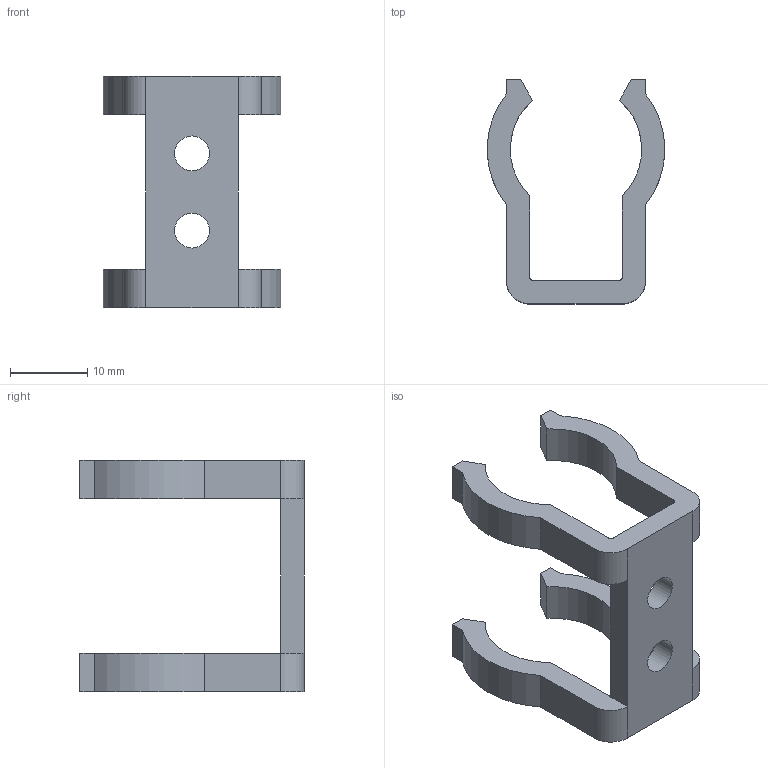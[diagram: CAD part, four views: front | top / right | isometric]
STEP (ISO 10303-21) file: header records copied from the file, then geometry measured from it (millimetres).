
FILE_DESCRIPTION(('STEP AP203'),'1');
FILE_NAME('BVFL-46H_3D.stp','2024-09-30T02:42:35',(' '),(' '),'Spatial InterOp 3D',' ',' ');
FILE_SCHEMA(('CONFIG_CONTROL_DESIGN'));
Length unit declared in the file: millimetre
Products named in the file (1): 1
Bounding box: 23 x 29 x 30 mm (x, y, z)
Volume: 2741 mm3; surface area: 2863.4 mm2
Topology: 1 solids, 1 shells, 48 faces, 134 edges, 88 vertices
Faces by surface type: plane 30, cylinder 18
Full cylindrical faces by diameter (mm): 4.5 x2
Entity records: 1584 total; most frequent: CARTESIAN_POINT 269, DIRECTION 266, ORIENTED_EDGE 264, EDGE_CURVE 132, LINE 96, VECTOR 96, VERTEX_POINT 88, AXIS2_PLACEMENT_3D 85
